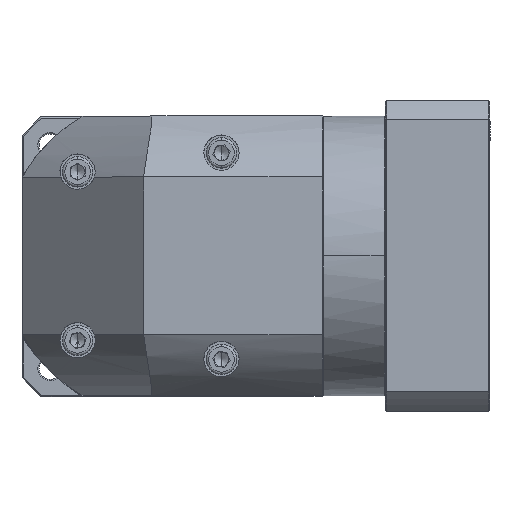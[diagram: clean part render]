
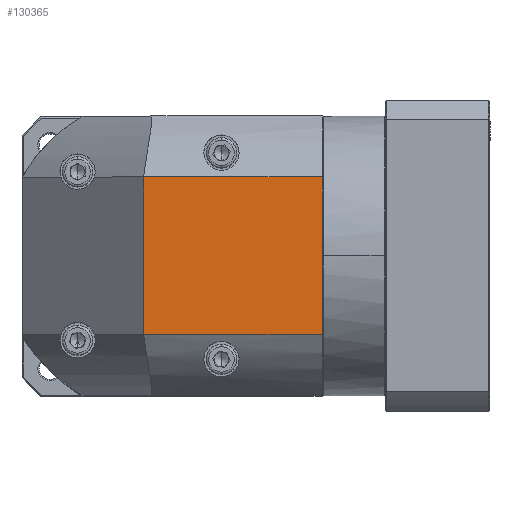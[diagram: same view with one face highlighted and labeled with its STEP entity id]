
A CAD part, top view. The second image highlights one B-rep face of the part: STEP entity #130365.
In plain terms, the highlighted planar face has unit normal (0, 0, 1).
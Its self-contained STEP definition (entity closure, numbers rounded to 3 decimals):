
#4381 = VECTOR ( 'NONE', #84169, 1000. ) ;
#7389 = ORIENTED_EDGE ( 'NONE', *, *, #44005, .F. ) ;
#13879 = CARTESIAN_POINT ( 'NONE',  ( 34.932, 90.907, 59.277 ) ) ;
#26825 = EDGE_CURVE ( 'NONE', #36404, #111383, #60892, .T. ) ;
#28699 = VECTOR ( 'NONE', #68319, 1000. ) ;
#32468 = VERTEX_POINT ( 'NONE', #82512 ) ;
#36404 = VERTEX_POINT ( 'NONE', #81226 ) ;
#44005 = EDGE_CURVE ( 'NONE', #86601, #32468, #86499, .T. ) ;
#46241 = EDGE_CURVE ( 'NONE', #111383, #86601, #121745, .T. ) ;
#51700 = ORIENTED_EDGE ( 'NONE', *, *, #115629, .F. ) ;
#53506 = CARTESIAN_POINT ( 'NONE',  ( 108.332, 90.907, 59.277 ) ) ;
#56417 = DIRECTION ( 'NONE',  ( 0., -1., 0. ) ) ;
#58210 = PLANE ( 'NONE',  #88025 ) ;
#58240 = VECTOR ( 'NONE', #93148, 1000. ) ;
#60892 = LINE ( 'NONE', #104194, #4381 ) ;
#67199 = EDGE_LOOP ( 'NONE', ( #130011, #113823, #51700, #7389 ) ) ;
#68319 = DIRECTION ( 'NONE',  ( 1., 0., 0. ) ) ;
#69822 = VECTOR ( 'NONE', #93669, 1000. ) ;
#76529 = LINE ( 'NONE', #124253, #69822 ) ;
#78639 = DIRECTION ( 'NONE',  ( 0., 0., -1. ) ) ;
#79892 = FACE_OUTER_BOUND ( 'NONE', #67199, .T. ) ;
#81226 = CARTESIAN_POINT ( 'NONE',  ( 34.932, 26.107, 59.277 ) ) ;
#82512 = CARTESIAN_POINT ( 'NONE',  ( 108.332, 26.107, 59.277 ) ) ;
#82858 = CARTESIAN_POINT ( 'NONE',  ( 108.332, 116.007, 59.277 ) ) ;
#84169 = DIRECTION ( 'NONE',  ( 0., 1., 0. ) ) ;
#86499 = LINE ( 'NONE', #82858, #58240 ) ;
#86601 = VERTEX_POINT ( 'NONE', #53506 ) ;
#88025 = AXIS2_PLACEMENT_3D ( 'NONE', #132052, #78639, #56417 ) ;
#93148 = DIRECTION ( 'NONE',  ( 0., -1., 0. ) ) ;
#93669 = DIRECTION ( 'NONE',  ( -1., 0., 0. ) ) ;
#104194 = CARTESIAN_POINT ( 'NONE',  ( 34.932, 116.007, 59.277 ) ) ;
#110192 = CARTESIAN_POINT ( 'NONE',  ( -15.068, 90.907, 59.277 ) ) ;
#111383 = VERTEX_POINT ( 'NONE', #13879 ) ;
#113823 = ORIENTED_EDGE ( 'NONE', *, *, #26825, .F. ) ;
#115629 = EDGE_CURVE ( 'NONE', #32468, #36404, #76529, .T. ) ;
#121745 = LINE ( 'NONE', #110192, #28699 ) ;
#124253 = CARTESIAN_POINT ( 'NONE',  ( -15.068, 26.107, 59.277 ) ) ;
#130011 = ORIENTED_EDGE ( 'NONE', *, *, #46241, .F. ) ;
#130365 = ADVANCED_FACE ( 'NONE', ( #79892 ), #58210, .F. ) ;
#132052 = CARTESIAN_POINT ( 'NONE',  ( 42.432, 58.507, 59.277 ) ) ;
